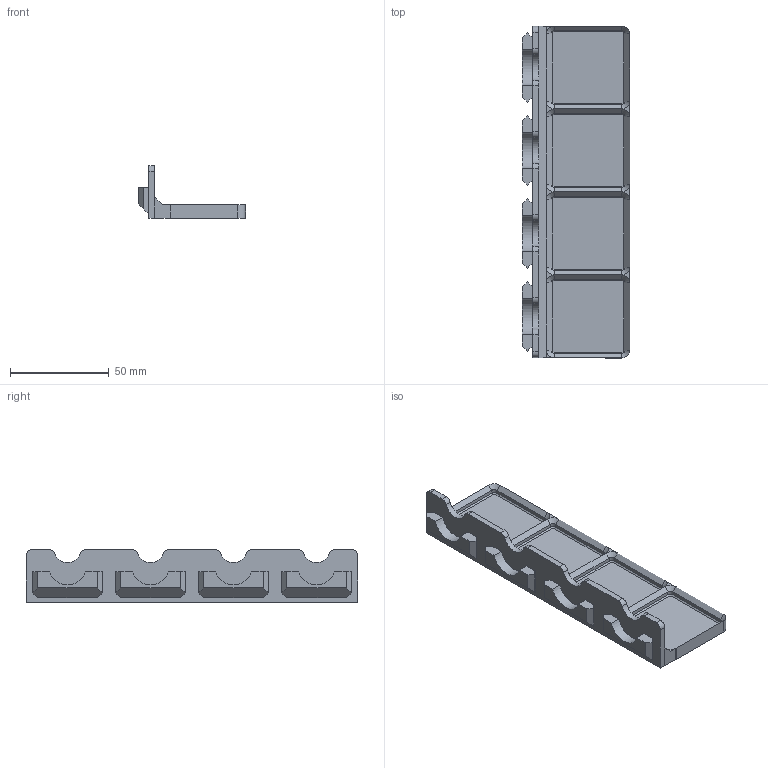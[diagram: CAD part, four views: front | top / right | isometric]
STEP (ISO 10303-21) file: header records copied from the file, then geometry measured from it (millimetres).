
FILE_DESCRIPTION(/* description */ ('','CAx-IF Rec.Pracs.---Representation and Presentation of Product Manufacturing Information (PMI)---4.0---2014-10-13'),/* implementation_level */ '2;1');
FILE_NAME(/* name */ 'Goews Quad Hanger Gridfinity 1x4 Base v1.step',/* time_stamp */ '2024-11-27T21:18:28-05:00',/* author */ (''),/* organization */ (''),/* preprocessor_version */ 'ST-DEVELOPER v20',/* originating_system */ 'Autodesk Translation Framework v13.20.0.188',/* authorisation */ '');
FILE_SCHEMA (('AP242_MANAGED_MODEL_BASED_3D_ENGINEERING_MIM_LF { 1 0 10303 442 1 1 4 }'));
Length unit declared in the file: millimetre
Products named in the file (1): Goews Quad Hanger Gridfinity 1x4 Base
Bounding box: 54.15 x 168 x 26.72 mm (x, y, z)
Volume: 45689.3 mm3; surface area: 28811.1 mm2
Topology: 1 solids, 1 shells, 206 faces, 480 edges, 280 vertices
Faces by surface type: plane 124, cylinder 50, cone 32
Entity records: 5735 total; most frequent: DIRECTION 1012, CARTESIAN_POINT 967, ORIENTED_EDGE 960, EDGE_CURVE 480, LINE 362, VECTOR 362, AXIS2_PLACEMENT_3D 325, VERTEX_POINT 280
